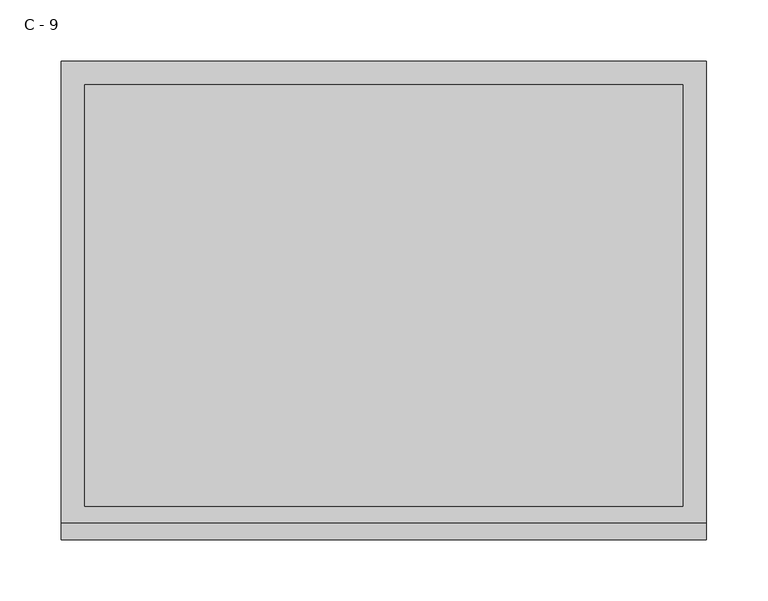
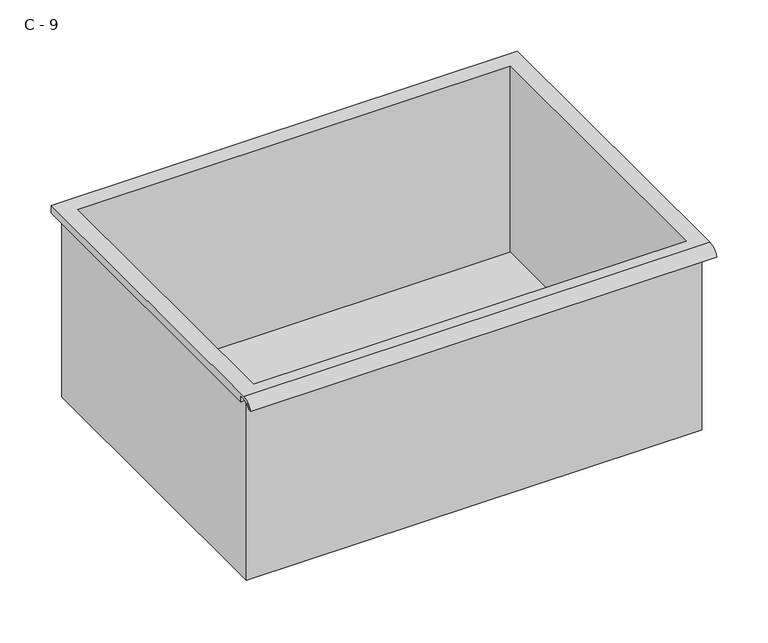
"""IFC4 building model written with IfcOpenShell, lengths in millimetres: furniture geometry, HermanMiller_CoStruc_CO207_Drawer : C - 9."""

from ifc_helpers import new_model, si_unit, frame, origin, place, context, project, spatial, polyline, circle_curve, source, transform, mapped, element, save
from ifc_brep_helpers import plane_surface, cylinder_surface, revolved_surface, advanced_brep


def c_9_16105775(model_context):
    return source(origin(), model_context, "Body", "AdvancedBrep", [
        advanced_brep(
        [(-257.1076517, -176.2125, 420.7002), (257.2423483, -176.2125, 420.7002), (257.2423483, -176.2125, 636.6002), (263.5923483, -176.2125, 636.6002), (263.5923483, -176.2125, 642.9073341), (-263.4576517, -176.2125, 642.9073341), (-263.4576517, -176.2125, 636.6002), (-257.1076517, -176.2125, 636.6002), (257.2423483, 185.7375, 420.7002), (-257.1076517, 185.7375, 420.7002), (-257.1076517, 185.7375, 636.6002), (257.2423483, 185.7375, 636.6002), (263.5923483, -181.6070544, 646.1252), (263.5923483, 195.2625, 646.1252), (-263.4576517, 195.2625, 646.1252), (-263.4576517, -181.6070544, 646.1252), (244.5423483, -168.275, 646.1252), (-244.4076517, -168.275, 646.1252), (-244.4076517, 176.2125, 646.1252), (244.5423483, 176.2125, 646.1252), (263.5923483, -195.2625, 636.6002), (263.5923483, -191.8280601, 636.6002), (263.5923483, -180.4714815, 642.9073341), (263.5923483, 195.2625, 636.6002), (-263.4576517, 195.2625, 636.6002), (-263.4576517, -180.4714815, 642.9073341), (-263.4576517, -191.8280601, 636.6002), (-263.4576517, -195.2625, 636.6002), (-244.4076517, -168.275, 423.7263719), (244.5423483, -168.275, 423.7263719), (244.5423483, 176.2125, 423.7263719), (-244.4076517, 176.2125, 423.7263719)],
        [
            (0, 1),
            (1, 2),
            (2, 3),
            (3, 4),
            (4, 5),
            (5, 6),
            (6, 7),
            (7, 0),
            (8, 9),
            (9, 10),
            (10, 11),
            (11, 8),
            (0, 9),
            (8, 1),
            (11, 2),
            (12, 13),
            (13, 14),
            (14, 15),
            (15, 12),
            (16, 17),
            (17, 18),
            (18, 19),
            (19, 16),
            (7, 10),
            (12, 20, circle_curve(frame((263.5923483, -181.6070544, 631.5741859), z_axis=(1.0, 0.0, 0.0), x_axis=(0.0, 1.0, 0.0)), 14.5510141)),
            (20, 21),
            (21, 22, circle_curve(frame((263.5923483, -181.6070544, 631.5741859), z_axis=(-1.0, 0.0, 0.0), x_axis=(0.0, 1.0, 0.0)), 11.3898979)),
            (22, 4),
            (3, 23),
            (23, 13),
            (14, 24),
            (24, 6),
            (5, 25),
            (25, 26, circle_curve(frame((-263.4576517, -181.6070544, 631.5741859), z_axis=(1.0, 0.0, 0.0), x_axis=(0.0, 1.0, 0.0)), 11.3898979)),
            (26, 27),
            (27, 15, circle_curve(frame((-263.4576517, -181.6070544, 631.5741859), z_axis=(-1.0, 0.0, 0.0), x_axis=(0.0, 1.0, 0.0)), 14.5510141)),
            (27, 20),
            (26, 21),
            (25, 22),
            (24, 23),
            (28, 29),
            (29, 30),
            (30, 31),
            (31, 28),
            (28, 17),
            (16, 29),
            (19, 30),
            (18, 31),
        ],
        [
            plane_surface(frame((257.2423483, -176.2125, 420.7002), z_axis=(0.0, -1.0, 0.0), x_axis=(1.0, 0.0, 0.0))),
            plane_surface(frame((257.2423483, 185.7375, 420.7002), z_axis=(0.0, 1.0, 0.0), x_axis=(-1.0, 0.0, 0.0))),
            plane_surface(frame((-257.1076517, -176.2125, 420.7002), z_axis=(0.0, 0.0, -1.0), x_axis=(0.0, 1.0, 0.0))),
            plane_surface(frame((257.2423483, -176.2125, 420.7002), z_axis=(1.0, 0.0, 0.0), x_axis=(0.0, 1.0, 0.0))),
            plane_surface(frame((257.2423483, -176.2125, 646.1252), z_axis=(0.0, 0.0, 1.0), x_axis=(0.0, 1.0, 0.0))),
            plane_surface(frame((-257.1076517, -176.2125, 646.1252), z_axis=(-1.0, 0.0, 0.0), x_axis=(0.0, 1.0, 0.0))),
            plane_surface(frame((263.5923483, 195.2625, 646.1252), z_axis=(1.0, 0.0, 0.0), x_axis=(0.0, -1.0, 0.0))),
            plane_surface(frame((-263.4576517, 195.2625, 646.1252), z_axis=(-1.0, 0.0, 0.0), x_axis=(0.0, 1.0, 0.0))),
            cylinder_surface(frame((-263.4576517, -181.6070544, 631.5741859), z_axis=(1.0, 0.0, 0.0), x_axis=(0.0, 1.0, 0.0)), 14.5510141),
            plane_surface(frame((263.5923483, -195.2625, 636.6002), z_axis=(0.0, -7.212409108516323e-12, -1.0), x_axis=(-1.0, 0.0, 0.0))),
            revolved_surface(polyline([(-263.4576517, -170.21715650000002, 631.5741859), (263.59234829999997, -170.21715650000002, 631.5741859)]), (-263.4576517, -181.6070544, 631.5741859), (-1.0, 0.0, 0.0)),
            plane_surface(frame((263.5923483, -180.4714815, 642.9073341), z_axis=(0.0, -1.7766064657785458e-11, -1.0), x_axis=(-1.0, 0.0, 0.0))),
            plane_surface(frame((263.5923483, -176.2125, 636.6002), z_axis=(0.0, 0.0, -1.0), x_axis=(-1.0, 0.0, 0.0))),
            plane_surface(frame((263.5923483, 195.2625, 636.6002), z_axis=(0.0, 1.0, 0.0), x_axis=(-1.0, 0.0, 0.0))),
            plane_surface(frame((244.5423483, -168.275, 423.7263719), z_axis=(0.0, 0.0, 1.0), x_axis=(-1.0, 0.0, 0.0))),
            plane_surface(frame((-244.4076517, -168.275, 646.1252), z_axis=(0.0, 1.0, 0.0), x_axis=(0.0, 0.0, -1.0))),
            plane_surface(frame((244.5423483, -168.275, 646.1252), z_axis=(-1.0, 0.0, 0.0), x_axis=(0.0, 0.0, -1.0))),
            plane_surface(frame((244.5423483, 176.2125, 646.1252), z_axis=(0.0, -1.0, 0.0), x_axis=(0.0, 0.0, -1.0))),
            plane_surface(frame((-244.4076517, 176.2125, 646.1252), z_axis=(1.0, 0.0, 0.0), x_axis=(0.0, 0.0, -1.0))),
        ],
        [
            (0, [[1, 2, 3, 4, 5, 6, 7, 8]]),
            (1, [[9, 10, 11, 12]]),
            (2, [[-1, 13, -9, 14]]),
            (3, [[-14, -12, 15, -2]]),
            (4, [[16, 17, 18, 19], [20, 21, 22, 23]]),
            (5, [[-13, -8, 24, -10]]),
            (6, [[-16, 25, 26, 27, 28, -4, 29, 30]]),
            (7, [[31, 32, -6, 33, 34, 35, 36, -18]]),
            (8, [[-25, -19, -36, 37]]),
            (9, [[-26, -37, -35, 38]]),
            (10, [[-27, -38, -34, 39]]),
            (11, [[-28, -39, -33, -5]]),
            (12, [[-29, -3, -15, -11, -24, -7, -32, 40]]),
            (13, [[-30, -40, -31, -17]]),
            (14, [[41, 42, 43, 44]]),
            (15, [[-41, 45, -20, 46]]),
            (16, [[-42, -46, -23, 47]]),
            (17, [[-43, -47, -22, 48]]),
            (18, [[-44, -48, -21, -45]]),
        ],
    ),
    ])


if __name__ == "__main__":
    model = new_model("IFC4")
    model_context = context("Model", 3, world=origin())
    ifc_project = project(units=[si_unit("LENGTHUNIT", "METRE", prefix="MILLI")], contexts=[model_context])
    site = spatial("IfcSite", under=ifc_project)
    building = spatial("IfcBuilding", under=site)
    placement = place(None, origin())
    c_9_shape = c_9_16105775(model_context)
    element("IfcFurniture", 1, ObjectType="HermanMiller_CoStruc_CO207_Drawer : C - 9", at=placement, inside=building, context=model_context, shape_type="MappedRepresentation", body=[
        mapped(c_9_shape, transform((0.0, 0.0, 0.0), x_axis=(1.0, 0.0, 0.0), y_axis=(0.0, 1.0, 0.0), z_axis=(0.0, 0.0, 1.0))),
    ])
    save(model, "model.ifc")
